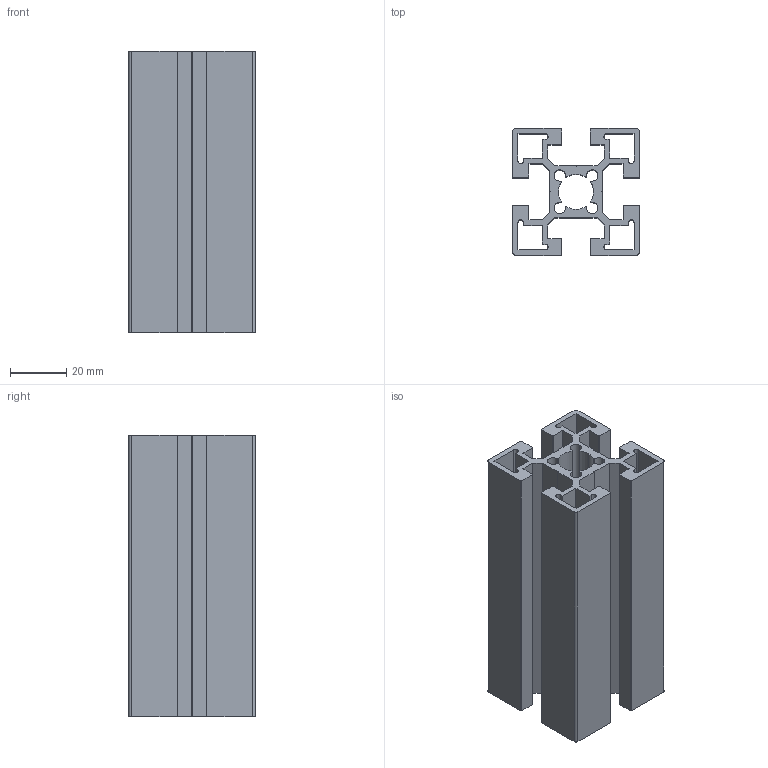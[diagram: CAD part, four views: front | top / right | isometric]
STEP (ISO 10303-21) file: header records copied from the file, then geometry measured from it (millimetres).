
FILE_DESCRIPTION (( 'STEP AP203' ), '1' );
FILE_NAME ('LIMA-4545-HFS.STEP', '2018-03-15T12:34:36', ( '' ), ( '' ), 'SwSTEP 2.0', 'SolidWorks 2013', '' );
FILE_SCHEMA (( 'CONFIG_CONTROL_DESIGN' ));
Length unit declared in the file: millimetre
Products named in the file (1): LIMA-4545-HFS
Bounding box: 45 x 45 x 100 mm (x, y, z)
Volume: 71985.5 mm3; surface area: 60343.1 mm2
Topology: 1 solids, 1 shells, 141 faces, 417 edges, 278 vertices
Faces by surface type: plane 82, cylinder 59
Entity records: 4826 total; most frequent: CARTESIAN_POINT 837, ORIENTED_EDGE 834, DIRECTION 819, EDGE_CURVE 417, VECTOR 299, LINE 299, VERTEX_POINT 278, AXIS2_PLACEMENT_3D 260
